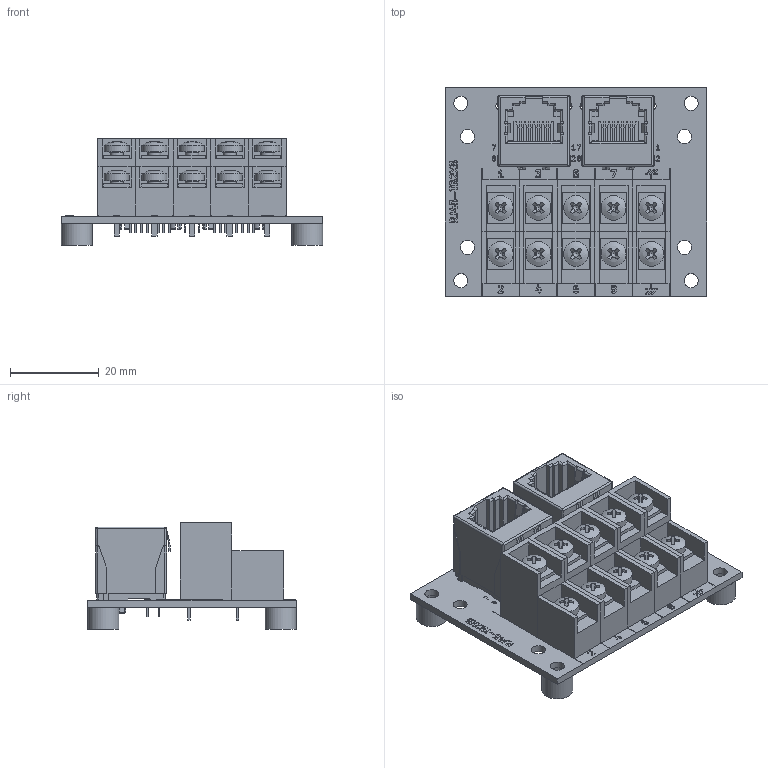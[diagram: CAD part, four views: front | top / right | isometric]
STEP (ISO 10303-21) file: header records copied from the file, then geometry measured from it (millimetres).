
FILE_DESCRIPTION(('FreeCAD Model'),'2;1');
FILE_NAME('C:/ws/KiCad/interface-terminal-converter/rj45-terminal/latest/rj45-terminal/step/rj45-tb2x5_direct_step.step','2020-12-25T20:00:19',('Author'), (''),'Open CASCADE STEP processor 7.3','FreeCAD','Unknown');
FILE_SCHEMA(('AUTOMOTIVE_DESIGN { 1 0 10303 214 1 1 1 1 }'));
Length unit declared in the file: millimetre
Products named in the file (27): rj45-terminal_direct; Board_Geoms_4e23; Local_CS_4e23; Pcb_4e23; PCB_Sketch_4e23; botSilks_6023; topSilks_a1e5; Step_Models_4e23; Top_4e23; J1_User_Library-CAT_RJ45_V_5FB00FFC; J2_User_Library-CAT_RJ45_V_5FB011A3; TB1_KF8500HL-8.5-1P_5FC64CAC; TB1_KF8500HL-8.5-1P_5FC64CAC[2]; TB1_KF8500HL-8.5-1P_5FC64CAC[3]; TB1_KF8500HL-8.5-1P_5FC64CAC[4]; TB1_KF8500HL-8.5-1P_5FC64CAC[5]; Step_Virtual_Models_4e23; BotV_4e23; H1_Body_5FC5E624; H2_Body_5FC5E62B; H3_Body_5FC5E632; H4_Body_5FC5E639
Assembly tree (39 placements, depth 4):
  rj45-terminal_direct
    Board_Geoms_4e23
      Local_CS_4e23
      Pcb_4e23
      PCB_Sketch_4e23
      botSilks_6023
      topSilks_a1e5
    Step_Models_4e23
      Top_4e23
        J1_User_Library-CAT_RJ45_V_5FB00FFC
        J2_User_Library-CAT_RJ45_V_5FB011A3
        TB1_KF8500HL-8.5-1P_5FC64CAC
        TB1_KF8500HL-8.5-1P_5FC64CAC[2]
        TB1_KF8500HL-8.5-1P_5FC64CAC[3]
        TB1_KF8500HL-8.5-1P_5FC64CAC[4]
        TB1_KF8500HL-8.5-1P_5FC64CAC[5]
    Step_Virtual_Models_4e23
      BotV_4e23
        H1_Body_5FC5E624
        H2_Body_5FC5E62B
        H3_Body_5FC5E632
        H4_Body_5FC5E639
  Step_Models_4e23
    Top_4e23
      J1_User_Library-CAT_RJ45_V_5FB00FFC
      J2_User_Library-CAT_RJ45_V_5FB011A3
      TB1_KF8500HL-8.5-1P_5FC64CAC
      TB1_KF8500HL-8.5-1P_5FC64CAC[2]
      TB1_KF8500HL-8.5-1P_5FC64CAC[3]
      TB1_KF8500HL-8.5-1P_5FC64CAC[4]
      TB1_KF8500HL-8.5-1P_5FC64CAC[5]
  Step_Virtual_Models_4e23
    BotV_4e23
      H1_Body_5FC5E624
      H2_Body_5FC5E62B
      H3_Body_5FC5E632
      H4_Body_5FC5E639
  Board_Geoms_4e23
    Local_CS_4e23
    Pcb_4e23
    PCB_Sketch_4e23
    botSilks_6023
    topSilks_a1e5
Bounding box: 59 x 47 x 24.1 mm (x, y, z)
Volume: 44199.9 mm3; surface area: 46970.5 mm2
Topology: 104 solids, 250 shells, 3158 faces, 28174 edges, 25322 vertices
Faces by surface type: plane 2378, cylinder 556, cone 168, revolution 20, sphere 20, bspline 16
Full cylindrical faces by diameter (mm): 0.9 x32, 1.5 x20, 1.7 x8, 2.5 x20, 3 x20, 3.2 x44, 3.45 x8, 5.6 x20, 7 x8
Entity records: 139706 total; most frequent: CARTESIAN_POINT 28781, DIRECTION 18191, ORIENTED_EDGE 18123, EDGE_CURVE 14063, LINE 12967, VECTOR 12967, VERTEX_POINT 12653, AXIS2_PLACEMENT_3D 2607
